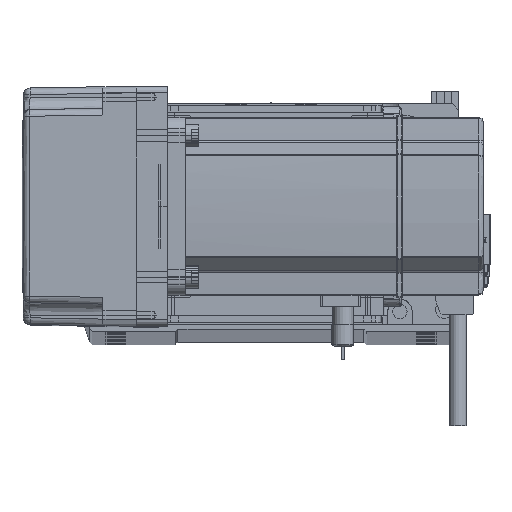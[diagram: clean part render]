
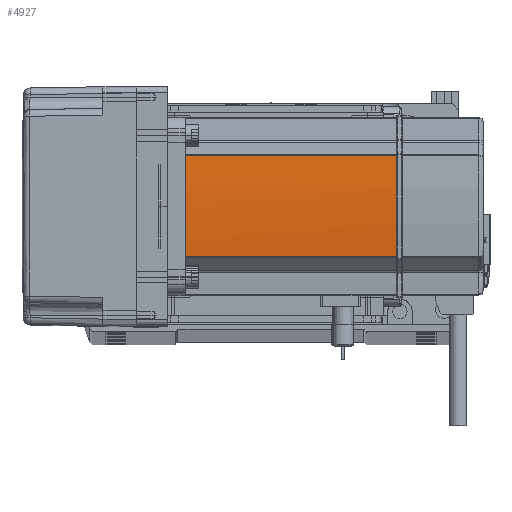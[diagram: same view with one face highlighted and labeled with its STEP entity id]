
A CAD part, top view. The second image highlights one B-rep face of the part: STEP entity #4927.
In plain terms, the highlighted cylindrical face has radius 270 mm (diameter 540 mm), a partial arc.
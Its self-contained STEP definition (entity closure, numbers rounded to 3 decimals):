
#740 = DIRECTION ( 'NONE',  ( 0., 0., -1. ) ) ;
#1305 = CARTESIAN_POINT ( 'NONE',  ( -230., 0., 134. ) ) ;
#1380 = LINE ( 'NONE', #19868, #3020 ) ;
#3020 = VECTOR ( 'NONE', #8978, 1000. ) ;
#3860 = ORIENTED_EDGE ( 'NONE', *, *, #22407, .T. ) ;
#4927 = ADVANCED_FACE ( 'NONE', ( #39428 ), #24017, .T. ) ;
#5904 = EDGE_CURVE ( 'NONE', #60682, #59105, #53135, .T. ) ;
#6255 = CARTESIAN_POINT ( 'NONE',  ( 39.042, -22.724, 39. ) ) ;
#6499 = CARTESIAN_POINT ( 'NONE',  ( -230., 0., 58. ) ) ;
#6719 = CARTESIAN_POINT ( 'NONE',  ( 40., -0.042, 134. ) ) ;
#8907 = ORIENTED_EDGE ( 'NONE', *, *, #11200, .T. ) ;
#8978 = DIRECTION ( 'NONE',  ( 0., 0., -1. ) ) ;
#8981 = CIRCLE ( 'NONE', #59815, 270. ) ;
#11200 = EDGE_CURVE ( 'NONE', #59105, #63772, #1380, .T. ) ;
#16123 = LINE ( 'NONE', #23298, #47064 ) ;
#16473 = AXIS2_PLACEMENT_3D ( 'NONE', #6499, #59743, #54731 ) ;
#18235 = DIRECTION ( 'NONE',  ( 0., 0., 1. ) ) ;
#18271 = DIRECTION ( 'NONE',  ( -1., 0., 0. ) ) ;
#18759 = VERTEX_POINT ( 'NONE', #60874 ) ;
#18926 = VERTEX_POINT ( 'NONE', #66941 ) ;
#19868 = CARTESIAN_POINT ( 'NONE',  ( 39.042, -22.724, 58. ) ) ;
#22407 = EDGE_CURVE ( 'NONE', #44797, #18926, #47293, .T. ) ;
#22602 = CARTESIAN_POINT ( 'NONE',  ( 39.042, -22.724, 134. ) ) ;
#23298 = CARTESIAN_POINT ( 'NONE',  ( 39.042, 22.724, 58. ) ) ;
#23665 = EDGE_LOOP ( 'NONE', ( #8907, #42906, #33139, #3860, #26989, #64574 ) ) ;
#24017 = CYLINDRICAL_SURFACE ( 'NONE', #16473, 270. ) ;
#26980 = CARTESIAN_POINT ( 'NONE',  ( 39.042, 22.724, 134. ) ) ;
#26989 = ORIENTED_EDGE ( 'NONE', *, *, #33270, .F. ) ;
#27115 = DIRECTION ( 'NONE',  ( 0., 0., -1. ) ) ;
#31364 = AXIS2_PLACEMENT_3D ( 'NONE', #1305, #27115, #63485 ) ;
#33139 = ORIENTED_EDGE ( 'NONE', *, *, #42247, .T. ) ;
#33270 = EDGE_CURVE ( 'NONE', #60682, #18926, #43595, .T. ) ;
#39428 = FACE_OUTER_BOUND ( 'NONE', #23665, .T. ) ;
#39462 = EDGE_CURVE ( 'NONE', #18759, #63772, #8981, .T. ) ;
#42247 = EDGE_CURVE ( 'NONE', #18759, #44797, #16123, .T. ) ;
#42906 = ORIENTED_EDGE ( 'NONE', *, *, #39462, .F. ) ;
#43595 = B_SPLINE_CURVE_WITH_KNOTS ( 'NONE', 3,
 ( #54264, #6719, #53818, #43781 ),
 .UNSPECIFIED., .F., .F.,
 ( 4, 4 ),
 ( 0., 1. ),
 .UNSPECIFIED. ) ;
#43781 = CARTESIAN_POINT ( 'NONE',  ( 40., 0.127, 134. ) ) ;
#44797 = VERTEX_POINT ( 'NONE', #26980 ) ;
#47064 = VECTOR ( 'NONE', #18235, 1000. ) ;
#47293 = CIRCLE ( 'NONE', #65794, 270. ) ;
#50374 = DIRECTION ( 'NONE',  ( 0., 0., -1. ) ) ;
#53135 = CIRCLE ( 'NONE', #31364, 270. ) ;
#53818 = CARTESIAN_POINT ( 'NONE',  ( 40., 0.042, 134. ) ) ;
#54264 = CARTESIAN_POINT ( 'NONE',  ( 40., -0.127, 134. ) ) ;
#54731 = DIRECTION ( 'NONE',  ( -1., 0., 0. ) ) ;
#57443 = CARTESIAN_POINT ( 'NONE',  ( -230., 0., 39. ) ) ;
#59105 = VERTEX_POINT ( 'NONE', #22602 ) ;
#59743 = DIRECTION ( 'NONE',  ( 0., 0., -1. ) ) ;
#59815 = AXIS2_PLACEMENT_3D ( 'NONE', #57443, #740, #63365 ) ;
#60682 = VERTEX_POINT ( 'NONE', #63292 ) ;
#60874 = CARTESIAN_POINT ( 'NONE',  ( 39.042, 22.724, 39. ) ) ;
#63292 = CARTESIAN_POINT ( 'NONE',  ( 40., -0.127, 134. ) ) ;
#63365 = DIRECTION ( 'NONE',  ( -1., 0., 0. ) ) ;
#63485 = DIRECTION ( 'NONE',  ( -1., 0., 0. ) ) ;
#63772 = VERTEX_POINT ( 'NONE', #6255 ) ;
#64574 = ORIENTED_EDGE ( 'NONE', *, *, #5904, .T. ) ;
#65794 = AXIS2_PLACEMENT_3D ( 'NONE', #66044, #50374, #18271 ) ;
#66044 = CARTESIAN_POINT ( 'NONE',  ( -230., 0., 134. ) ) ;
#66941 = CARTESIAN_POINT ( 'NONE',  ( 40., 0.127, 134. ) ) ;
